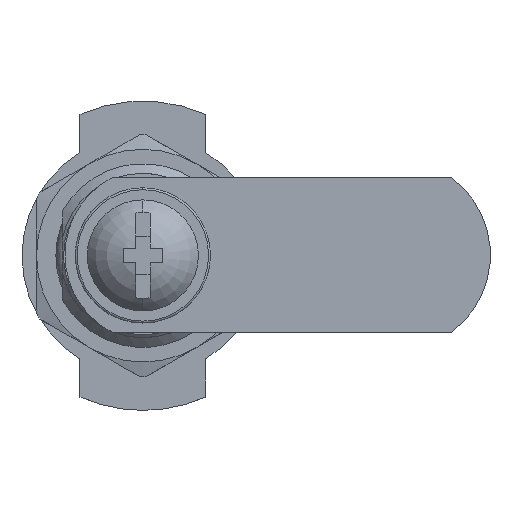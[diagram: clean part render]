
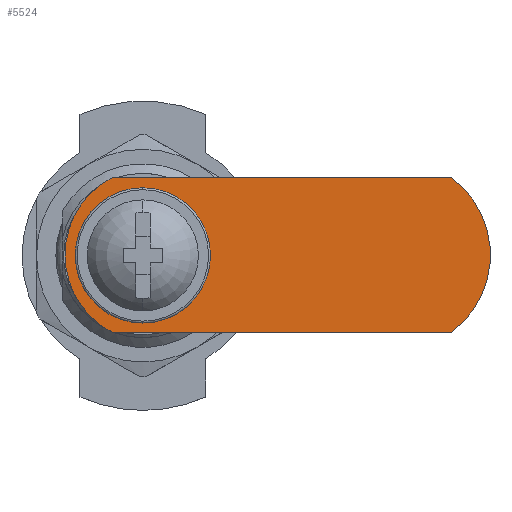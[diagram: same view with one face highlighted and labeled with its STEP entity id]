
A CAD part, top view. The second image highlights one B-rep face of the part: STEP entity #5524.
In plain terms, the highlighted planar face has unit normal (0, 0, 1) as drawn and (0, 0, -1) by its records, which use the part's own axes.
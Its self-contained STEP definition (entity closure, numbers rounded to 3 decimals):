
#35 = VERTEX_POINT ( 'NONE', #2455 ) ;
#204 = DIRECTION ( 'NONE',  ( 1., 0., 0. ) ) ;
#218 = DIRECTION ( 'NONE',  ( 0., 0., 1. ) ) ;
#235 = CARTESIAN_POINT ( 'NONE',  ( 30., 0., 0. ) ) ;
#613 = DIRECTION ( 'NONE',  ( 1., 0., 0. ) ) ;
#620 = CARTESIAN_POINT ( 'NONE',  ( 0.877, -8., 0. ) ) ;
#686 = FACE_OUTER_BOUND ( 'NONE', #4661, .T. ) ;
#725 = FACE_BOUND ( 'NONE', #4770, .T. ) ;
#871 = VERTEX_POINT ( 'NONE', #4375 ) ;
#1039 = CARTESIAN_POINT ( 'NONE',  ( 36., 8., 0. ) ) ;
#1130 = CARTESIAN_POINT ( 'NONE',  ( 0.877, 8., 0. ) ) ;
#1435 = DIRECTION ( 'NONE',  ( 1., 0., 0. ) ) ;
#1439 = AXIS2_PLACEMENT_3D ( 'NONE', #1470, #5156, #1435 ) ;
#1462 = PLANE ( 'NONE',  #1439 ) ;
#1470 = CARTESIAN_POINT ( 'NONE',  ( 5., 0., 0. ) ) ;
#1611 = EDGE_CURVE ( 'NONE', #2037, #5199, #4020, .T. ) ;
#1846 = CARTESIAN_POINT ( 'NONE',  ( 5., 0., 0. ) ) ;
#1847 = DIRECTION ( 'NONE',  ( 1., 0., 0. ) ) ;
#1851 = DIRECTION ( 'NONE',  ( 0., 0., 1. ) ) ;
#1969 = CARTESIAN_POINT ( 'NONE',  ( 8., -4., 0. ) ) ;
#2037 = VERTEX_POINT ( 'NONE', #1130 ) ;
#2125 = AXIS2_PLACEMENT_3D ( 'NONE', #4015, #4010, #4001 ) ;
#2247 = ORIENTED_EDGE ( 'NONE', *, *, #4897, .T. ) ;
#2455 = CARTESIAN_POINT ( 'NONE',  ( 36., -8., 0. ) ) ;
#2520 = CARTESIAN_POINT ( 'NONE',  ( -4., 0., 0. ) ) ;
#2523 = VERTEX_POINT ( 'NONE', #1969 ) ;
#2685 = CARTESIAN_POINT ( 'NONE',  ( 0.877, -8., 0. ) ) ;
#2741 = VECTOR ( 'NONE', #3751, 1000. ) ;
#2745 = VECTOR ( 'NONE', #3750, 1000. ) ;
#2748 = VECTOR ( 'NONE', #3796, 1000. ) ;
#2754 = LINE ( 'NONE', #3869, #2748 ) ;
#2797 = LINE ( 'NONE', #3787, #2741 ) ;
#2812 = LINE ( 'NONE', #3839, #2745 ) ;
#2841 = VERTEX_POINT ( 'NONE', #2685 ) ;
#2861 = VECTOR ( 'NONE', #4059, 1000. ) ;
#2867 = CIRCLE ( 'NONE', #2125, 9. ) ;
#2886 = ORIENTED_EDGE ( 'NONE', *, *, #4927, .T. ) ;
#2891 = ORIENTED_EDGE ( 'NONE', *, *, #4771, .F. ) ;
#2913 = ORIENTED_EDGE ( 'NONE', *, *, #4642, .F. ) ;
#2918 = ORIENTED_EDGE ( 'NONE', *, *, #4886, .F. ) ;
#2922 = LINE ( 'NONE', #4092, #2861 ) ;
#2923 = ORIENTED_EDGE ( 'NONE', *, *, #4845, .F. ) ;
#2929 = ORIENTED_EDGE ( 'NONE', *, *, #1611, .F. ) ;
#2954 = VECTOR ( 'NONE', #4247, 1000. ) ;
#2996 = LINE ( 'NONE', #4253, #2954 ) ;
#3112 = VERTEX_POINT ( 'NONE', #4924 ) ;
#3162 = CIRCLE ( 'NONE', #4345, 10. ) ;
#3621 = LINE ( 'NONE', #620, #3643 ) ;
#3643 = VECTOR ( 'NONE', #613, 1000. ) ;
#3750 = DIRECTION ( 'NONE',  ( 0., 1., 0. ) ) ;
#3751 = DIRECTION ( 'NONE',  ( 1., 0., 0. ) ) ;
#3787 = CARTESIAN_POINT ( 'NONE',  ( 0., -4., 0. ) ) ;
#3796 = DIRECTION ( 'NONE',  ( 0., -1., 0. ) ) ;
#3839 = CARTESIAN_POINT ( 'NONE',  ( 8., 4., 0. ) ) ;
#3869 = CARTESIAN_POINT ( 'NONE',  ( 0., 4., 0. ) ) ;
#3880 = CARTESIAN_POINT ( 'NONE',  ( 8., 4., 0. ) ) ;
#4001 = DIRECTION ( 'NONE',  ( 1., 0., 0. ) ) ;
#4010 = DIRECTION ( 'NONE',  ( 0., 0., 1. ) ) ;
#4015 = CARTESIAN_POINT ( 'NONE',  ( 5., 0., 0. ) ) ;
#4020 = CIRCLE ( 'NONE', #4815, 9. ) ;
#4059 = DIRECTION ( 'NONE',  ( -1., 0., 0. ) ) ;
#4092 = CARTESIAN_POINT ( 'NONE',  ( 0., 4., 0. ) ) ;
#4247 = DIRECTION ( 'NONE',  ( -1., 0., 0. ) ) ;
#4253 = CARTESIAN_POINT ( 'NONE',  ( 0.877, 8., 0. ) ) ;
#4345 = AXIS2_PLACEMENT_3D ( 'NONE', #235, #218, #204 ) ;
#4375 = CARTESIAN_POINT ( 'NONE',  ( 0., -4., 0. ) ) ;
#4427 = VERTEX_POINT ( 'NONE', #1039 ) ;
#4642 = EDGE_CURVE ( 'NONE', #2841, #35, #3621, .T. ) ;
#4661 = EDGE_LOOP ( 'NONE', ( #2929, #2923, #2891, #2913, #2918 ) ) ;
#4770 = EDGE_LOOP ( 'NONE', ( #2247, #2886, #4852, #4880 ) ) ;
#4771 = EDGE_CURVE ( 'NONE', #35, #4427, #3162, .T. ) ;
#4815 = AXIS2_PLACEMENT_3D ( 'NONE', #1846, #1851, #1847 ) ;
#4845 = EDGE_CURVE ( 'NONE', #4427, #2037, #2996, .T. ) ;
#4852 = ORIENTED_EDGE ( 'NONE', *, *, #4948, .T. ) ;
#4880 = ORIENTED_EDGE ( 'NONE', *, *, #4960, .T. ) ;
#4886 = EDGE_CURVE ( 'NONE', #5199, #2841, #2867, .T. ) ;
#4897 = EDGE_CURVE ( 'NONE', #4920, #3112, #2922, .T. ) ;
#4920 = VERTEX_POINT ( 'NONE', #3880 ) ;
#4924 = CARTESIAN_POINT ( 'NONE',  ( 0., 4., 0. ) ) ;
#4927 = EDGE_CURVE ( 'NONE', #3112, #871, #2754, .T. ) ;
#4948 = EDGE_CURVE ( 'NONE', #871, #2523, #2797, .T. ) ;
#4960 = EDGE_CURVE ( 'NONE', #2523, #4920, #2812, .T. ) ;
#5156 = DIRECTION ( 'NONE',  ( 0., 0., 1. ) ) ;
#5199 = VERTEX_POINT ( 'NONE', #2520 ) ;
#5524 = ADVANCED_FACE ( 'NONE', ( #725, #686 ), #1462, .F. ) ;
